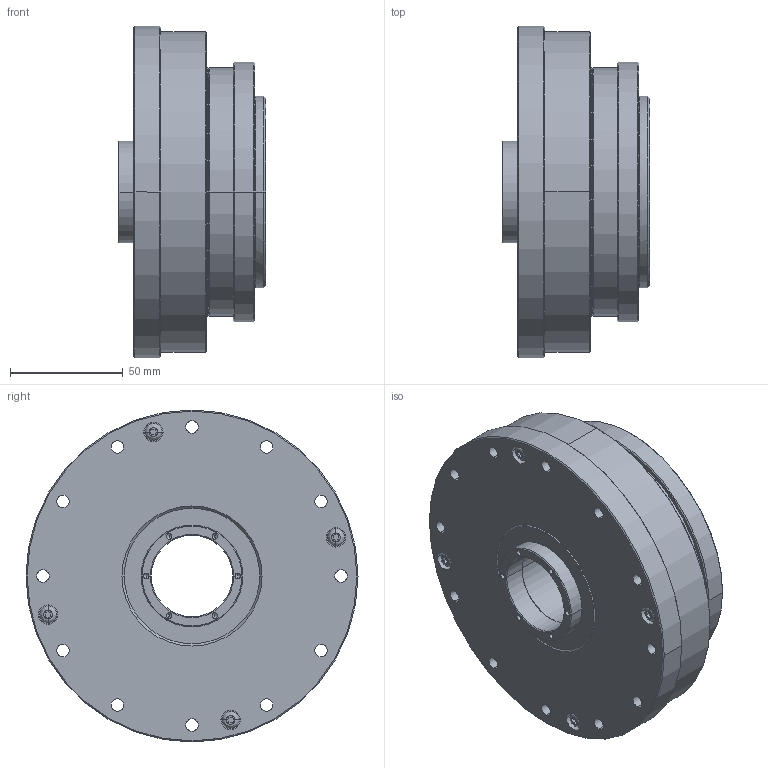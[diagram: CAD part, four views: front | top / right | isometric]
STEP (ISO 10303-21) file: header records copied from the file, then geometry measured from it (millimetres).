
FILE_DESCRIPTION(('STEP AP214'),'1');
FILE_NAME('cctmp_5000CE5A-F670-4BC2-95C0-891D3F361CB1_2025_03_06_11_33_14_0908_88604..stp','2025-03-06T10:33:15',('HIWIN GmbH'),('CADClick - www.CADClick.com'),'Spatial InterOp 3D',' ','unknown authorization');
FILE_SCHEMA(('AUTOMOTIVE_DESIGN'));
Length unit declared in the file: millimetre
Products named in the file (2): DSH-32-XX-AH_FILE; 2025_03_06_11_33_14_0892
Assembly tree (1 placements, depth 2):
  DSH-32-XX-AH_FILE
    2025_03_06_11_33_14_0892
Bounding box: 65.5 x 147 x 147 mm (x, y, z)
Volume: 683964.6 mm3; surface area: 82281.5 mm2
Topology: 1 solids, 1 shells, 494 faces, 1218 edges, 766 vertices
Faces by surface type: cylinder 204, cone 154, plane 118, bspline 18
Entity records: 18945 total; most frequent: CARTESIAN_POINT 2977, DIRECTION 2742, ORIENTED_EDGE 2324, EDGE_CURVE 1162, AXIS2_PLACEMENT_3D 1120, VERTEX_POINT 766, CIRCLE 642, EDGE_LOOP 616
